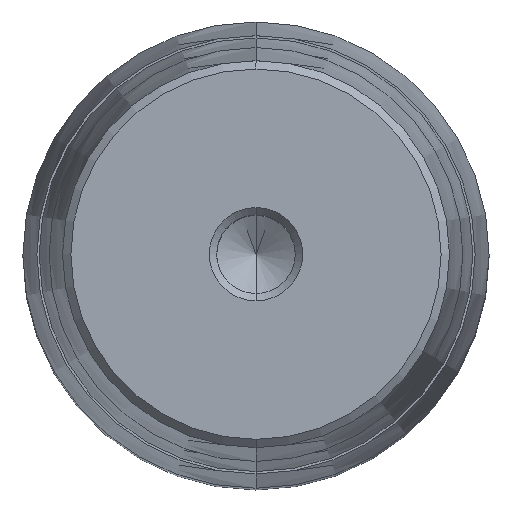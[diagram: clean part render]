
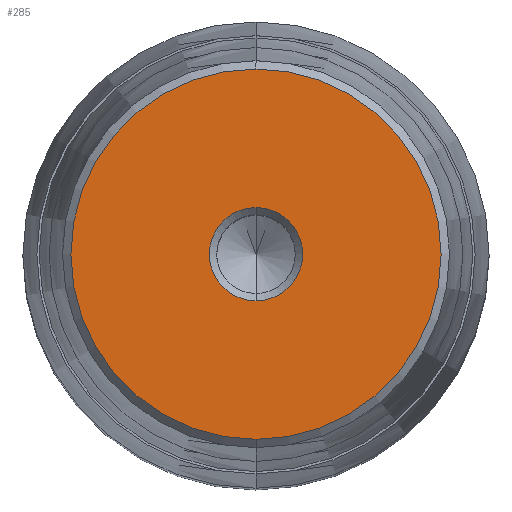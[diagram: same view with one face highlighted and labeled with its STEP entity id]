
A CAD part, top view. The second image highlights one B-rep face of the part: STEP entity #285.
In plain terms, the highlighted planar face has unit normal (0, 0, 1).
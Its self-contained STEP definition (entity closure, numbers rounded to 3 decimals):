
#164=CARTESIAN_POINT('Axis2P3D Location',(0.,0.,69.)) ;
#168=CARTESIAN_POINT('Vertex',(6.,0.,69.)) ;
#170=CARTESIAN_POINT('Vertex',(0.,-6.,69.)) ;
#173=CARTESIAN_POINT('Axis2P3D Location',(0.,0.,69.)) ;
#177=CARTESIAN_POINT('Vertex',(0.,6.,69.)) ;
#228=CARTESIAN_POINT('Axis2P3D Location',(0.,6.,69.)) ;
#233=CARTESIAN_POINT('Axis2P3D Location',(0.,0.,69.)) ;
#237=CARTESIAN_POINT('Vertex',(0.,23.825,69.)) ;
#239=CARTESIAN_POINT('Vertex',(23.825,0.,69.)) ;
#242=CARTESIAN_POINT('Axis2P3D Location',(0.,0.,69.)) ;
#246=CARTESIAN_POINT('Vertex',(-23.825,0.,69.)) ;
#249=CARTESIAN_POINT('Axis2P3D Location',(0.,0.,69.)) ;
#253=CARTESIAN_POINT('Vertex',(0.,-23.825,69.)) ;
#256=CARTESIAN_POINT('Axis2P3D Location',(0.,0.,69.)) ;
#267=CARTESIAN_POINT('Axis2P3D Location',(0.,0.,69.)) ;
#271=CARTESIAN_POINT('Vertex',(-6.,0.,69.)) ;
#274=CARTESIAN_POINT('Axis2P3D Location',(0.,0.,69.)) ;
#165=DIRECTION('Axis2P3D Direction',(0.,0.,1.)) ;
#174=DIRECTION('Axis2P3D Direction',(0.,0.,1.)) ;
#229=DIRECTION('Axis2P3D Direction',(-0.,0.,-1.)) ;
#230=DIRECTION('Axis2P3D XDirection',(0.,1.,0.)) ;
#234=DIRECTION('Axis2P3D Direction',(-0.,0.,-1.)) ;
#243=DIRECTION('Axis2P3D Direction',(-0.,0.,-1.)) ;
#250=DIRECTION('Axis2P3D Direction',(-0.,0.,-1.)) ;
#257=DIRECTION('Axis2P3D Direction',(-0.,0.,-1.)) ;
#268=DIRECTION('Axis2P3D Direction',(-0.,0.,-1.)) ;
#275=DIRECTION('Axis2P3D Direction',(-0.,0.,-1.)) ;
#166=AXIS2_PLACEMENT_3D('Circle Axis2P3D',#164,#165,$) ;
#175=AXIS2_PLACEMENT_3D('Circle Axis2P3D',#173,#174,$) ;
#231=AXIS2_PLACEMENT_3D('Plane Axis2P3D',#228,#229,#230) ;
#235=AXIS2_PLACEMENT_3D('Circle Axis2P3D',#233,#234,$) ;
#244=AXIS2_PLACEMENT_3D('Circle Axis2P3D',#242,#243,$) ;
#251=AXIS2_PLACEMENT_3D('Circle Axis2P3D',#249,#250,$) ;
#258=AXIS2_PLACEMENT_3D('Circle Axis2P3D',#256,#257,$) ;
#269=AXIS2_PLACEMENT_3D('Circle Axis2P3D',#267,#268,$) ;
#276=AXIS2_PLACEMENT_3D('Circle Axis2P3D',#274,#275,$) ;
#262=ORIENTED_EDGE('',*,*,#241,.F.) ;
#263=ORIENTED_EDGE('',*,*,#248,.F.) ;
#264=ORIENTED_EDGE('',*,*,#255,.F.) ;
#265=ORIENTED_EDGE('',*,*,#260,.F.) ;
#280=ORIENTED_EDGE('',*,*,#172,.T.) ;
#281=ORIENTED_EDGE('',*,*,#273,.T.) ;
#282=ORIENTED_EDGE('',*,*,#278,.T.) ;
#283=ORIENTED_EDGE('',*,*,#179,.T.) ;
#284=FACE_BOUND('',#279,.T.) ;
#285=ADVANCED_FACE('722-60x160x211',(#266,#284),#232,.F.) ;
#167=CIRCLE('generated circle',#166,6.) ;
#176=CIRCLE('generated circle',#175,6.) ;
#236=CIRCLE('generated circle',#235,23.825) ;
#245=CIRCLE('generated circle',#244,23.825) ;
#252=CIRCLE('generated circle',#251,23.825) ;
#259=CIRCLE('generated circle',#258,23.825) ;
#270=CIRCLE('generated circle',#269,6.) ;
#277=CIRCLE('generated circle',#276,6.) ;
#172=EDGE_CURVE('',#169,#171,#167,.F.) ;
#179=EDGE_CURVE('',#178,#169,#176,.F.) ;
#241=EDGE_CURVE('',#238,#240,#236,.T.) ;
#248=EDGE_CURVE('',#247,#238,#245,.T.) ;
#255=EDGE_CURVE('',#254,#247,#252,.T.) ;
#260=EDGE_CURVE('',#240,#254,#259,.T.) ;
#273=EDGE_CURVE('',#171,#272,#270,.T.) ;
#278=EDGE_CURVE('',#272,#178,#277,.T.) ;
#261=EDGE_LOOP('',(#262,#263,#264,#265)) ;
#279=EDGE_LOOP('',(#280,#281,#282,#283)) ;
#266=FACE_OUTER_BOUND('',#261,.T.) ;
#232=PLANE('Plane',#231) ;
#169=VERTEX_POINT('',#168) ;
#171=VERTEX_POINT('',#170) ;
#178=VERTEX_POINT('',#177) ;
#238=VERTEX_POINT('',#237) ;
#240=VERTEX_POINT('',#239) ;
#247=VERTEX_POINT('',#246) ;
#254=VERTEX_POINT('',#253) ;
#272=VERTEX_POINT('',#271) ;
